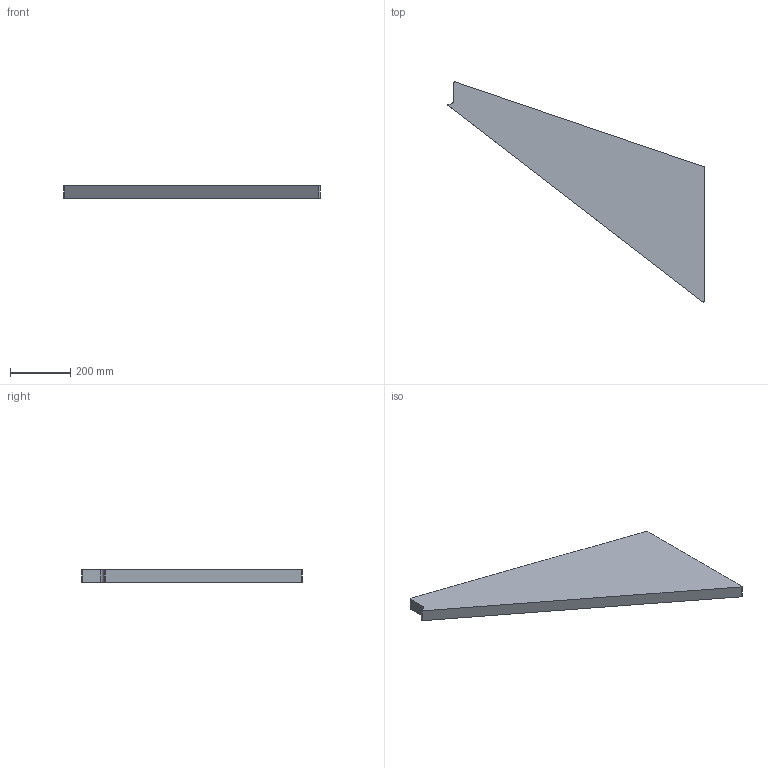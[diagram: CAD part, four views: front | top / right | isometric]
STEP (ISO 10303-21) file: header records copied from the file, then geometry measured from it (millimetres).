
FILE_DESCRIPTION(/* description */ (''),/* implementation_level */ '2;1');
FILE_NAME(/* name */ 'Pos102-Hout D= 40-Hout-3st',/* time_stamp */ '2024-08-06T13:37:43+02:00',/* author */ (''),/* organization */ (''),/* preprocessor_version */ 'ST-DEVELOPER v16.5',/* originating_system */ 'HiCAD 2024 2901.2 Build 361',/* authorisation */ '');
FILE_SCHEMA (('AUTOMOTIVE_DESIGN { 1 0 10303 214 1 1 1 1 }'));
Length unit declared in the file: millimetre
Products named in the file (2): Pos102-Hout D= 40-Hout-3st; Pos0-Antislip-Rubber-0st
Assembly tree (1 placements, depth 2):
  Pos102-Hout D= 40-Hout-3st
    Pos0-Antislip-Rubber-0st
Bounding box: 850.2 x 729.47 x 40 mm (x, y, z)
Volume: 9070547.6 mm3; surface area: 552914.3 mm2
Topology: 1 solids, 1 shells, 12 faces, 30 edges, 20 vertices
Faces by surface type: plane 7, cylinder 5
Entity records: 708 total; most frequent: DIRECTION 68, CARTESIAN_POINT 64, PRESENTATION_STYLE_ASSIGNMENT 61, COLOUR_RGB 61, DRAUGHTING_PRE_DEFINED_CURVE_FONT 60, CURVE_STYLE 60, OVER_RIDING_STYLED_ITEM 60, ORIENTED_EDGE 60
